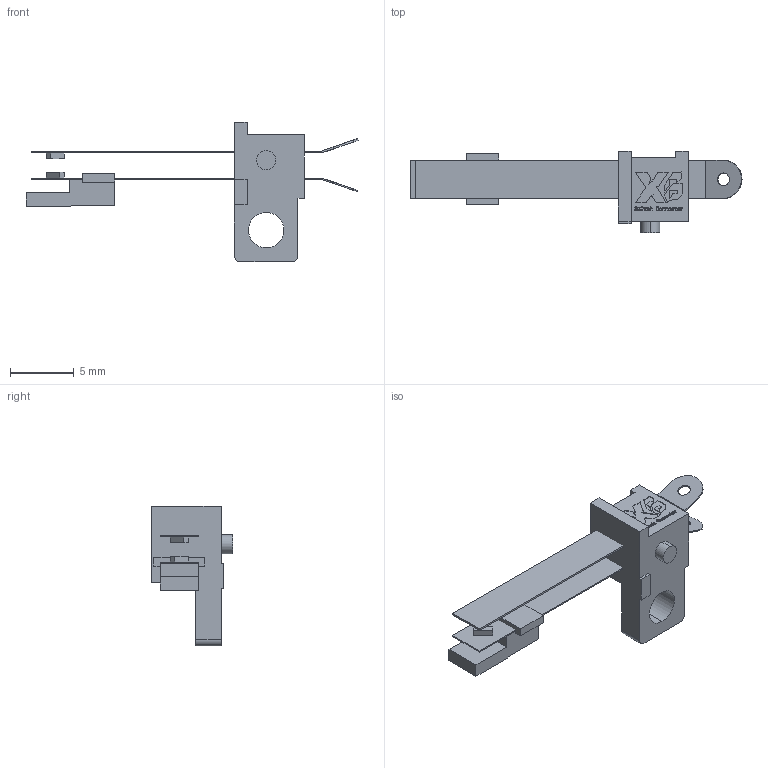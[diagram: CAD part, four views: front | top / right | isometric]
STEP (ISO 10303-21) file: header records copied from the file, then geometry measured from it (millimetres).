
FILE_DESCRIPTION (( 'STEP AP203' ), '1' );
FILE_NAME ('XB-LF-013.STEP', '2024-03-07T15:27:58', ( '' ), ( '' ), 'SwSTEP 2.0', 'SolidWorks 2020', '' );
FILE_SCHEMA (( 'CONFIG_CONTROL_DESIGN' ));
Length unit declared in the file: millimetre
Products named in the file (1): XB-LF-013
Bounding box: 26.12 x 6.4 x 11 mm (x, y, z)
Volume: 245.2 mm3; surface area: 679.9 mm2
Topology: 6 solids, 6 shells, 320 faces, 852 edges, 568 vertices
Faces by surface type: plane 216, bspline 82, cylinder 22
Entity records: 14615 total; most frequent: CARTESIAN_POINT 7071, ORIENTED_EDGE 1704, DIRECTION 1210, EDGE_CURVE 852, VECTOR 644, LINE 644, VERTEX_POINT 568, EDGE_LOOP 350
